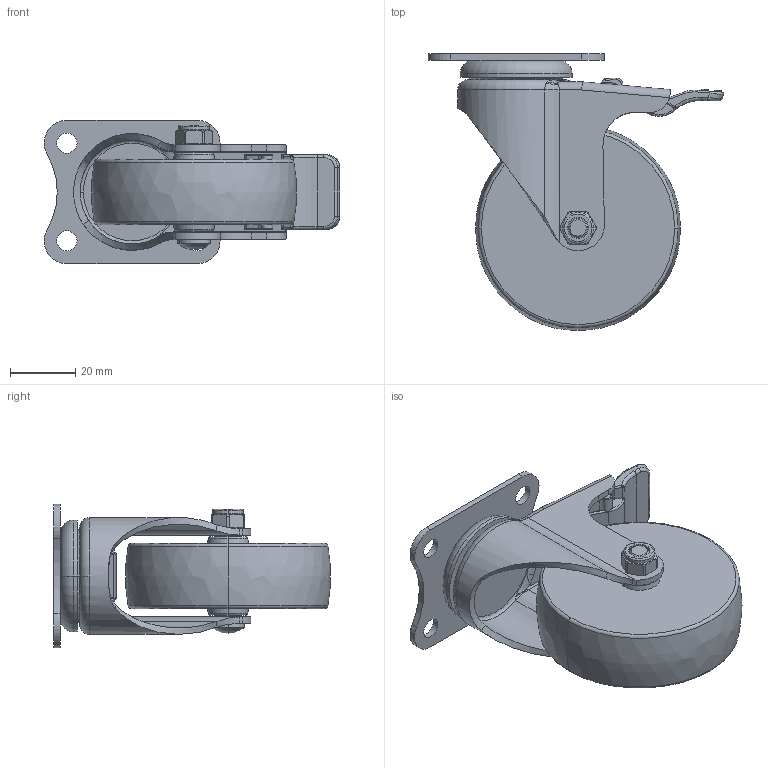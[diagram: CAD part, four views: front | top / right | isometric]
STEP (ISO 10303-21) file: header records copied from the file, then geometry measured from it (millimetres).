
FILE_DESCRIPTION((''),'2;1');
FILE_NAME('261115-2615-83_ASM','2019-12-13T',('L'),(''),'PRO/ENGINEER BY PARAMETRIC TECHNOLOGY CORPORATION, 2010280','PRO/ENGINEER BY PARAMETRIC TECHNOLOGY CORPORATION, 2010280','');
FILE_SCHEMA(('CONFIG_CONTROL_DESIGN'));
Length unit declared in the file: millimetre
Products named in the file (6): 261225; 2625-83; 2610-020; 2610-031; 2600-512; 261115-2615-83_ASM
Assembly tree (5 placements, depth 2):
  261115-2615-83_ASM
    261225
    2625-83
    2610-020
    2610-031
    2600-512
Bounding box: 90.75 x 84.9 x 44 mm (x, y, z)
Volume: 83357.9 mm3; surface area: 29178.6 mm2
Topology: 5 solids, 5 shells, 322 faces, 774 edges, 467 vertices
Faces by surface type: cylinder 120, plane 85, torus 54, bspline 43, cone 18, sphere 2
Entity records: 11864 total; most frequent: CARTESIAN_POINT 4375, DIRECTION 1576, ORIENTED_EDGE 1536, EDGE_CURVE 768, AXIS2_PLACEMENT_3D 641, VERTEX_POINT 467, EDGE_LOOP 351, CIRCLE 351
